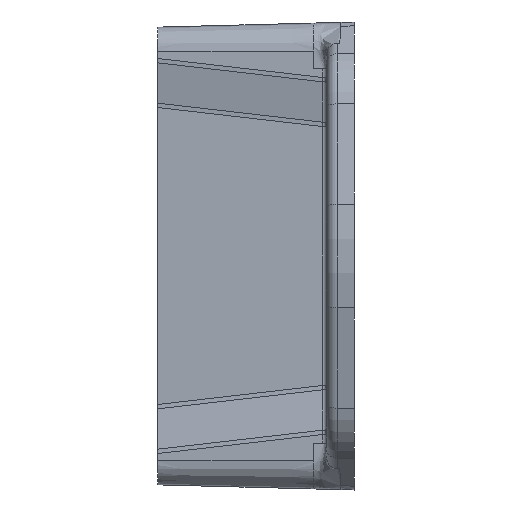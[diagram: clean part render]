
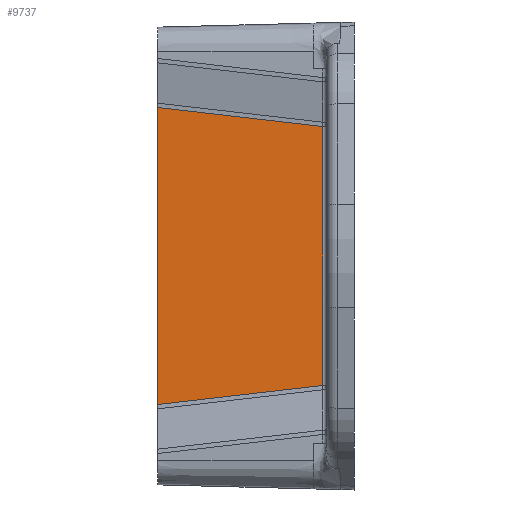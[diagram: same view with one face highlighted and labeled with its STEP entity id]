
A CAD part, left-side view. The second image highlights one B-rep face of the part: STEP entity #9737.
In plain terms, the highlighted planar face has unit normal (-1, 0.026, 0).
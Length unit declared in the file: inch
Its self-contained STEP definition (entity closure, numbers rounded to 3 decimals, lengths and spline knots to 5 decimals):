
#166 = CARTESIAN_POINT ( 'NONE',  ( -1.527, 0., -0.675 ) ) ;
#185 = CARTESIAN_POINT ( 'NONE',  ( -1.54674, -0.75388, -0.5783 ) ) ;
#516 = DIRECTION ( 'NONE',  ( 0., 0., 1. ) ) ;
#571 = CARTESIAN_POINT ( 'NONE',  ( -1.54637, -0.73978, -0.675 ) ) ;
#643 = DIRECTION ( 'NONE',  ( 0.026, 0.993, 0.114 ) ) ;
#725 = DIRECTION ( 'NONE',  ( -0.026, -0.993, 0.114 ) ) ;
#816 = DIRECTION ( 'NONE',  ( 0., 0., 1. ) ) ;
#923 = CARTESIAN_POINT ( 'NONE',  ( -1.52697, 0.00112, 0.6653 ) ) ;
#1010 = VECTOR ( 'NONE', #816, 39.37008 ) ;
#1011 = LINE ( 'NONE', #166, #1010 ) ;
#1013 = VECTOR ( 'NONE', #725, 39.37008 ) ;
#1014 = LINE ( 'NONE', #185, #1013 ) ;
#1015 = VECTOR ( 'NONE', #516, 39.37008 ) ;
#1018 = VECTOR ( 'NONE', #643, 39.37008 ) ;
#1019 = LINE ( 'NONE', #571, #1015 ) ;
#1021 = LINE ( 'NONE', #923, #1018 ) ;
#1469 = ORIENTED_EDGE ( 'NONE', *, *, #4675, .T. ) ;
#1470 = ORIENTED_EDGE ( 'NONE', *, *, #4674, .T. ) ;
#1471 = ORIENTED_EDGE ( 'NONE', *, *, #4673, .T. ) ;
#1472 = ORIENTED_EDGE ( 'NONE', *, *, #4676, .F. ) ;
#4251 = EDGE_LOOP ( 'NONE', ( #1469, #1470, #1471, #1472 ) ) ;
#4673 = EDGE_CURVE ( 'NONE', #5024, #5033, #1021, .T. ) ;
#4674 = EDGE_CURVE ( 'NONE', #5027, #5024, #1019, .T. ) ;
#4675 = EDGE_CURVE ( 'NONE', #5075, #5027, #1014, .T. ) ;
#4676 = EDGE_CURVE ( 'NONE', #5075, #5033, #1011, .T. ) ;
#4855 = AXIS2_PLACEMENT_3D ( 'NONE', #8441, #8440, #8439 ) ;
#5024 = VERTEX_POINT ( 'NONE', #11242 ) ;
#5027 = VERTEX_POINT ( 'NONE', #11239 ) ;
#5033 = VERTEX_POINT ( 'NONE', #11233 ) ;
#5075 = VERTEX_POINT ( 'NONE', #11191 ) ;
#8439 = DIRECTION ( 'NONE',  ( -0.026, -1., 0. ) ) ;
#8440 = DIRECTION ( 'NONE',  ( -1., 0.026, 0. ) ) ;
#8441 = CARTESIAN_POINT ( 'NONE',  ( -1.527, 0., -0.675 ) ) ;
#8443 = PLANE ( 'NONE',  #4855 ) ;
#9737 = ADVANCED_FACE ( 'NONE', ( #11484 ), #8443, .T. ) ;
#11191 = CARTESIAN_POINT ( 'NONE',  ( -1.527, 0., -0.66517 ) ) ;
#11233 = CARTESIAN_POINT ( 'NONE',  ( -1.527, 0., 0.66517 ) ) ;
#11239 = CARTESIAN_POINT ( 'NONE',  ( -1.54637, -0.73978, -0.57993 ) ) ;
#11242 = CARTESIAN_POINT ( 'NONE',  ( -1.54637, -0.73978, 0.57993 ) ) ;
#11484 = FACE_OUTER_BOUND ( 'NONE', #4251, .T. ) ;
